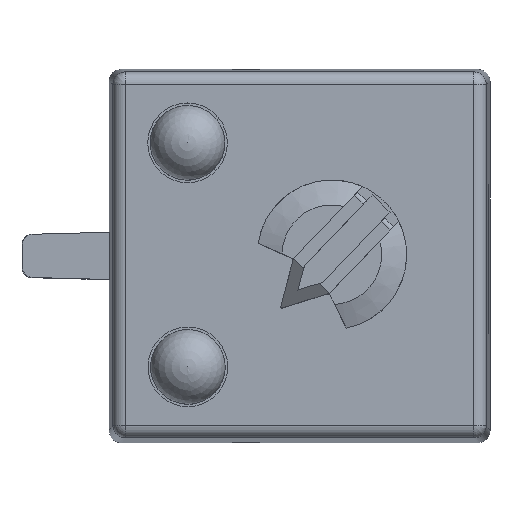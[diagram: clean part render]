
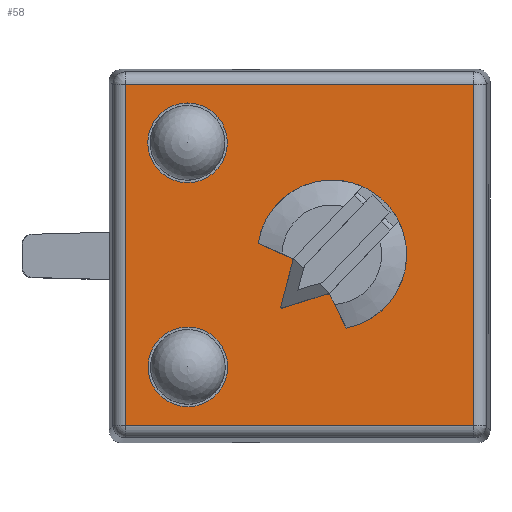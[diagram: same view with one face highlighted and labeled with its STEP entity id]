
A CAD part, top view. The second image highlights one B-rep face of the part: STEP entity #58.
In plain terms, the highlighted planar face has unit normal (0, 0, 1).
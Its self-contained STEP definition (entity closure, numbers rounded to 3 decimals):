
#58=ADVANCED_FACE('',(#2209,#2211,#2213,#2215),#2217,.T.);
#2209=FACE_BOUND('',#2210,.T.);
#2210=EDGE_LOOP('',(#4520,#4521,#4522,#4523));
#2211=FACE_BOUND('',#2212,.T.);
#2212=EDGE_LOOP('',(#4524,#4525,#4526,#4527,#4528,#4529,#4530,#4531,#4532,#4533));
#2213=FACE_BOUND('',#2214,.T.);
#2214=EDGE_LOOP('',(#4534));
#2215=FACE_BOUND('',#2216,.T.);
#2216=EDGE_LOOP('',(#4535));
#2217=PLANE('',#2218);
#2218=AXIS2_PLACEMENT_3D('',#2219,#2220,#2221);
#2219=CARTESIAN_POINT('',(0.,0.,29.3));
#2220=DIRECTION('',(0.,0.,1.));
#2221=DIRECTION('',(1.,0.,0.));
#4520=ORIENTED_EDGE('',*,*,#5732,.T.);
#4521=ORIENTED_EDGE('',*,*,#5733,.T.);
#4522=ORIENTED_EDGE('',*,*,#5734,.T.);
#4523=ORIENTED_EDGE('',*,*,#5735,.T.);
#4524=ORIENTED_EDGE('',*,*,#5736,.F.);
#4525=ORIENTED_EDGE('',*,*,#5737,.F.);
#4526=ORIENTED_EDGE('',*,*,#5738,.F.);
#4527=ORIENTED_EDGE('',*,*,#5739,.T.);
#4528=ORIENTED_EDGE('',*,*,#5740,.F.);
#4529=ORIENTED_EDGE('',*,*,#5741,.F.);
#4530=ORIENTED_EDGE('',*,*,#5742,.F.);
#4531=ORIENTED_EDGE('',*,*,#5743,.F.);
#4532=ORIENTED_EDGE('',*,*,#5744,.F.);
#4533=ORIENTED_EDGE('',*,*,#5745,.T.);
#4534=ORIENTED_EDGE('',*,*,#5746,.T.);
#4535=ORIENTED_EDGE('',*,*,#5747,.T.);
#5732=EDGE_CURVE('',#6338,#6339,#6340,.T.);
#5733=EDGE_CURVE('',#6339,#6341,#6342,.T.);
#5734=EDGE_CURVE('',#6341,#6343,#6344,.T.);
#5735=EDGE_CURVE('',#6343,#6338,#6345,.T.);
#5736=EDGE_CURVE('',#6346,#6347,#6348,.T.);
#5737=EDGE_CURVE('',#6349,#6346,#6350,.F.);
#5738=EDGE_CURVE('',#6351,#6349,#6352,.T.);
#5739=EDGE_CURVE('',#6351,#6353,#6354,.F.);
#5740=EDGE_CURVE('',#6355,#6353,#6356,.T.);
#5741=EDGE_CURVE('',#6357,#6355,#6358,.F.);
#5742=EDGE_CURVE('',#6359,#6357,#6360,.F.);
#5743=EDGE_CURVE('',#6361,#6359,#6362,.F.);
#5744=EDGE_CURVE('',#6363,#6361,#6364,.T.);
#5745=EDGE_CURVE('',#6363,#6347,#6365,.F.);
#5746=EDGE_CURVE('',#6366,#6366,#6367,.F.);
#5747=EDGE_CURVE('',#6368,#6368,#6369,.F.);
#6338=VERTEX_POINT('',#7344);
#6339=VERTEX_POINT('',#7345);
#6340=LINE('',#7346,#7347);
#6341=VERTEX_POINT('',#7349);
#6342=LINE('',#7350,#7351);
#6343=VERTEX_POINT('',#7353);
#6344=LINE('',#7354,#7355);
#6345=LINE('',#7357,#7358);
#6346=VERTEX_POINT('',#7360);
#6347=VERTEX_POINT('',#7361);
#6348=LINE('',#7362,#7363);
#6349=VERTEX_POINT('',#7365);
#6350=CIRCLE('',#7366,2.1);
#6351=VERTEX_POINT('',#7370);
#6352=LINE('',#7371,#7372);
#6353=VERTEX_POINT('',#7374);
#6354=CIRCLE('',#7375,1.6);
#6355=VERTEX_POINT('',#7379);
#6356=CIRCLE('',#7380,0.06);
#6357=VERTEX_POINT('',#7384);
#6358=LINE('',#7385,#7386);
#6359=VERTEX_POINT('',#7388);
#6360=CIRCLE('',#7389,2.1);
#6361=VERTEX_POINT('',#7393);
#6362=LINE('',#7394,#7395);
#6363=VERTEX_POINT('',#7397);
#6364=CIRCLE('',#7398,0.06);
#6365=CIRCLE('',#7402,1.6);
#6366=VERTEX_POINT('',#7406);
#6367=CIRCLE('',#7407,1.6);
#6368=VERTEX_POINT('',#7411);
#6369=CIRCLE('',#7412,1.6);
#7344=CARTESIAN_POINT('',(11.588,6.849,29.3));
#7345=CARTESIAN_POINT('',(-2.41,6.849,29.3));
#7346=CARTESIAN_POINT('',(11.588,6.849,29.3));
#7347=VECTOR('',#7348,1.);
#7348=DIRECTION('',(-1.,0.,0.));
#7349=CARTESIAN_POINT('',(-2.41,-6.849,29.3));
#7350=CARTESIAN_POINT('',(-2.41,6.849,29.3));
#7351=VECTOR('',#7352,1.);
#7352=DIRECTION('',(0.,-1.,0.));
#7353=CARTESIAN_POINT('',(11.588,-6.849,29.3));
#7354=CARTESIAN_POINT('',(-2.41,-6.849,29.3));
#7355=VECTOR('',#7356,1.);
#7356=DIRECTION('',(1.,0.,0.));
#7357=CARTESIAN_POINT('',(11.588,-6.849,29.3));
#7358=VECTOR('',#7359,1.);
#7359=DIRECTION('',(0.,1.,0.));
#7360=CARTESIAN_POINT('',(4.871,-1.837,29.3));
#7361=CARTESIAN_POINT('',(5.682,-1.586,29.3));
#7362=CARTESIAN_POINT('',(4.871,-1.837,29.3));
#7363=VECTOR('',#7364,1.);
#7364=DIRECTION('',(0.955,0.295,0.));
#7365=CARTESIAN_POINT('',(4.096,-1.092,29.3));
#7366=AXIS2_PLACEMENT_3D('',#7367,#7368,#7369);
#7367=CARTESIAN_POINT('',(5.889,0.,29.3));
#7368=DIRECTION('',(0.,0.,-1.));
#7369=DIRECTION('',(-0.485,-0.875,0.));
#7370=CARTESIAN_POINT('',(4.313,-0.272,29.3));
#7371=CARTESIAN_POINT('',(4.313,-0.272,29.3));
#7372=VECTOR('',#7373,1.);
#7373=DIRECTION('',(-0.256,-0.967,0.));
#7374=CARTESIAN_POINT('',(4.296,-0.151,29.3));
#7375=AXIS2_PLACEMENT_3D('',#7376,#7377,#7378);
#7376=CARTESIAN_POINT('',(5.889,0.,29.3));
#7377=DIRECTION('',(0.,-0.,1.));
#7378=DIRECTION('',(-0.996,-0.095,0.));
#7379=CARTESIAN_POINT('',(4.293,-0.15,29.3));
#7380=AXIS2_PLACEMENT_3D('',#7381,#7382,#7383);
#7381=CARTESIAN_POINT('',(4.268,-0.205,29.3));
#7382=DIRECTION('',(0.,0.,-1.));
#7383=DIRECTION('',(0.404,0.915,0.));
#7384=CARTESIAN_POINT('',(3.79,0.072,29.3));
#7385=CARTESIAN_POINT('',(4.293,-0.15,29.3));
#7386=VECTOR('',#7387,1.);
#7387=DIRECTION('',(-0.915,0.404,0.));
#7388=CARTESIAN_POINT('',(6.047,-2.094,29.3));
#7389=AXIS2_PLACEMENT_3D('',#7390,#7391,#7392);
#7390=CARTESIAN_POINT('',(5.889,0.,29.3));
#7391=DIRECTION('',(0.,0.,-1.));
#7392=DIRECTION('',(-0.999,0.034,0.));
#7393=CARTESIAN_POINT('',(5.805,-1.601,29.3));
#7394=CARTESIAN_POINT('',(6.047,-2.094,29.3));
#7395=VECTOR('',#7396,1.);
#7396=DIRECTION('',(-0.441,0.897,0.));
#7397=CARTESIAN_POINT('',(5.803,-1.598,29.3));
#7398=AXIS2_PLACEMENT_3D('',#7399,#7400,#7401);
#7399=CARTESIAN_POINT('',(5.751,-1.628,29.3));
#7400=DIRECTION('',(0.,0.,-1.));
#7401=DIRECTION('',(0.865,0.501,0.));
#7402=AXIS2_PLACEMENT_3D('',#7403,#7404,#7405);
#7403=CARTESIAN_POINT('',(5.889,0.,29.3));
#7404=DIRECTION('',(0.,-0.,1.));
#7405=DIRECTION('',(-0.13,-0.992,0.));
#7406=CARTESIAN_POINT('',(1.702,-4.5,29.3));
#7407=AXIS2_PLACEMENT_3D('',#7408,#7409,#7410);
#7408=CARTESIAN_POINT('',(0.102,-4.5,29.3));
#7409=DIRECTION('',(0.,0.,1.));
#7410=DIRECTION('',(1.,0.,0.));
#7411=CARTESIAN_POINT('',(0.089,6.1,29.3));
#7412=AXIS2_PLACEMENT_3D('',#7413,#7414,#7415);
#7413=CARTESIAN_POINT('',(0.089,4.5,29.3));
#7414=DIRECTION('',(0.,-0.,1.));
#7415=DIRECTION('',(0.,1.,0.));
